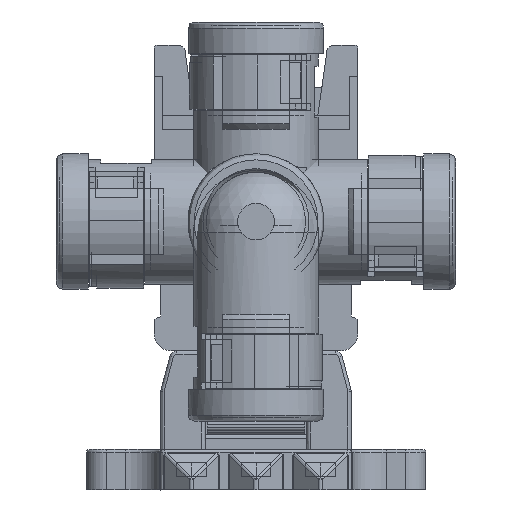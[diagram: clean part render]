
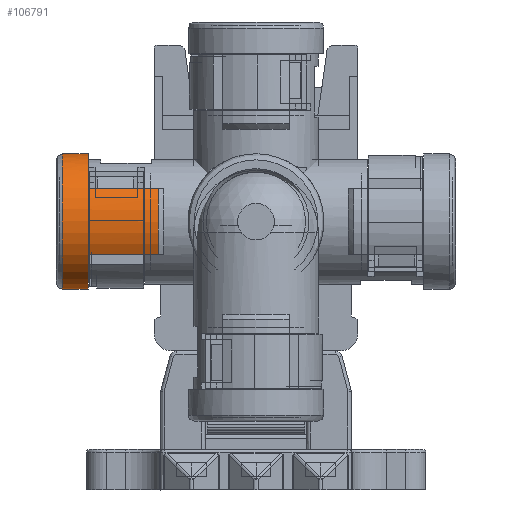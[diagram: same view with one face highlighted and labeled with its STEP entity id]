
A CAD part, left-side view. The second image highlights one B-rep face of the part: STEP entity #106791.
In plain terms, the highlighted cylindrical face has radius 10 mm (diameter 20 mm), a full revolution.
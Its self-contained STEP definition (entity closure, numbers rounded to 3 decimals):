
#1383=CYLINDRICAL_SURFACE('',#104445,10.);
#3653=VECTOR('',#77536,1.);
#3665=VECTOR('',#77590,1.);
#3666=VECTOR('',#77591,1.);
#3667=VECTOR('',#77594,1.);
#6421=LINE('',#96153,#3653);
#6433=LINE('',#96202,#3665);
#6434=LINE('',#96204,#3666);
#6435=LINE('',#96207,#3667);
#54110=ORIENTED_EDGE('',*,*,#64171,.F.);
#54111=ORIENTED_EDGE('',*,*,#64172,.F.);
#54112=ORIENTED_EDGE('',*,*,#64140,.F.);
#54113=ORIENTED_EDGE('',*,*,#64173,.F.);
#54114=ORIENTED_EDGE('',*,*,#64174,.F.);
#54115=ORIENTED_EDGE('',*,*,#64149,.F.);
#54116=ORIENTED_EDGE('',*,*,#64144,.F.);
#54117=ORIENTED_EDGE('',*,*,#64175,.F.);
#54118=ORIENTED_EDGE('',*,*,#64176,.F.);
#57025=CIRCLE('',#104421,10.);
#57026=CIRCLE('',#104422,10.);
#57037=CIRCLE('',#104444,10.);
#57038=CIRCLE('',#104446,10.);
#57039=CIRCLE('',#104447,10.);
#59695=VERTEX_POINT('',#96129);
#59698=VERTEX_POINT('',#96134);
#59699=VERTEX_POINT('',#96136);
#59702=VERTEX_POINT('',#96142);
#59705=VERTEX_POINT('',#96152);
#59720=VERTEX_POINT('',#96198);
#59721=VERTEX_POINT('',#96201);
#59722=VERTEX_POINT('',#96203);
#59723=VERTEX_POINT('',#96206);
#64140=EDGE_CURVE('',#59698,#59699,#57025,.T.);
#64144=EDGE_CURVE('',#59702,#59695,#57026,.T.);
#64149=EDGE_CURVE('',#59695,#59705,#6421,.T.);
#64171=EDGE_CURVE('',#59720,#59720,#57037,.T.);
#64172=EDGE_CURVE('',#59699,#59721,#6433,.T.);
#64173=EDGE_CURVE('',#59722,#59698,#6434,.T.);
#64174=EDGE_CURVE('',#59705,#59722,#57038,.T.);
#64175=EDGE_CURVE('',#59723,#59702,#6435,.T.);
#64176=EDGE_CURVE('',#59721,#59723,#57039,.T.);
#66748=EDGE_LOOP('',(#54110));
#66749=EDGE_LOOP('',(#54111,#54112,#54113,#54114,#54115,#54116,#54117,#54118));
#68927=FACE_BOUND('',#66748,.T.);
#68928=FACE_BOUND('',#66749,.T.);
#77522=DIRECTION('',(0.,0.,-1.));
#77523=DIRECTION('',(8.717,-4.9,0.));
#77527=DIRECTION('',(0.,0.,-1.));
#77528=DIRECTION('',(-8.717,4.9,0.));
#77536=DIRECTION('',(0.,0.,-10.3));
#77586=DIRECTION('',(0.,0.,1.));
#77587=DIRECTION('',(-10.,0.,0.));
#77588=DIRECTION('',(0.,0.,1.));
#77589=DIRECTION('',(1.,0.,0.));
#77590=DIRECTION('',(0.,0.,-10.3));
#77591=DIRECTION('',(0.,0.,10.3));
#77592=DIRECTION('',(0.,0.,-1.));
#77593=DIRECTION('',(8.717,4.9,0.));
#77594=DIRECTION('',(0.,0.,10.3));
#77595=DIRECTION('',(0.,0.,-1.));
#77596=DIRECTION('',(-8.717,-4.9,0.));
#96129=CARTESIAN_POINT('',(13.417,4.9,20.6));
#96134=CARTESIAN_POINT('',(13.417,-4.9,20.6));
#96136=CARTESIAN_POINT('',(-4.017,-4.9,20.6));
#96137=CARTESIAN_POINT('',(4.7,0.,20.6));
#96142=CARTESIAN_POINT('',(-4.017,4.9,20.6));
#96144=CARTESIAN_POINT('',(4.7,0.,20.6));
#96152=CARTESIAN_POINT('',(13.417,4.9,10.3));
#96153=CARTESIAN_POINT('',(13.417,4.9,20.6));
#96198=CARTESIAN_POINT('',(-5.3,0.,24.4));
#96199=CARTESIAN_POINT('',(4.7,0.,24.4));
#96200=CARTESIAN_POINT('',(4.7,0.,-0.3));
#96201=CARTESIAN_POINT('',(-4.017,-4.9,10.3));
#96202=CARTESIAN_POINT('',(-4.017,-4.9,20.6));
#96203=CARTESIAN_POINT('',(13.417,-4.9,10.3));
#96204=CARTESIAN_POINT('',(13.417,-4.9,10.3));
#96205=CARTESIAN_POINT('',(4.7,0.,10.3));
#96206=CARTESIAN_POINT('',(-4.017,4.9,10.3));
#96207=CARTESIAN_POINT('',(-4.017,4.9,10.3));
#96208=CARTESIAN_POINT('',(4.7,0.,10.3));
#104421=AXIS2_PLACEMENT_3D('',#96137,#77522,#77523);
#104422=AXIS2_PLACEMENT_3D('',#96144,#77527,#77528);
#104444=AXIS2_PLACEMENT_3D('',#96199,#77586,#77587);
#104445=AXIS2_PLACEMENT_3D('',#96200,#77588,#77589);
#104446=AXIS2_PLACEMENT_3D('',#96205,#77592,#77593);
#104447=AXIS2_PLACEMENT_3D('',#96208,#77595,#77596);
#106791=ADVANCED_FACE('',(#68927,#68928),#1383,.T.);
